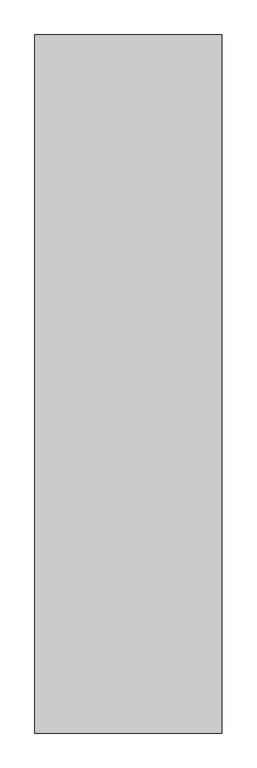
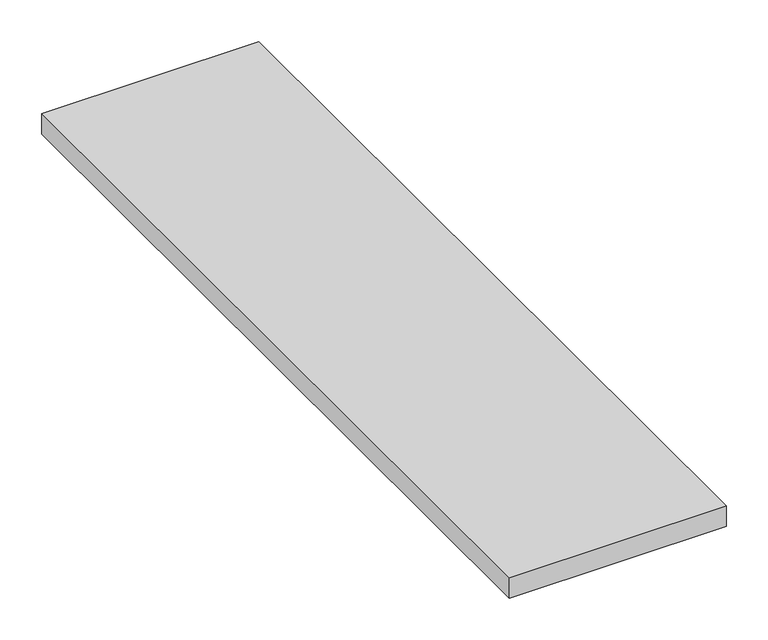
"""IFC4 building model written with IfcOpenShell, lengths in millimetres: proxy geometry, GM_Отделка : Ступень."""

from ifc_helpers import new_model, si_unit, origin, origin_with_axes, place, context, project, spatial, polyline, outline, extrude, source, transform, mapped, element, save


def generic_models_b2ea4c5b(model_context):
    return source(origin(), model_context, "Body", "SweptSolid", [
        extrude(outline(polyline([(-50.0, -972.5), (-350.0, -972.5), (-350.0, 147.5), (-50.0, 147.5), (-50.0, -972.5)])), origin_with_axes(), (0.0, 0.0, 1.0), 30.0),
    ])


if __name__ == "__main__":
    model = new_model("IFC4")
    model_context = context("Model", 3, world=origin())
    ifc_project = project(units=[si_unit("LENGTHUNIT", "METRE", prefix="MILLI")], contexts=[model_context])
    site = spatial("IfcSite", under=ifc_project)
    building = spatial("IfcBuilding", under=site)
    placement = place(None, origin())
    generic_models_shape = generic_models_b2ea4c5b(model_context)
    element("IfcBuildingElementProxy", 1, Name="GM_Отделка : Ступень", ObjectType="GM_Отделка : Ступень", at=placement, inside=building, context=model_context, shape_type="MappedRepresentation", body=[
        mapped(generic_models_shape, transform((0.0, 0.0, 0.0), x_axis=(1.0, 0.0, 0.0), y_axis=(0.0, 1.0, 0.0), z_axis=(0.0, 0.0, 1.0))),
    ])
    save(model, "model.ifc")
